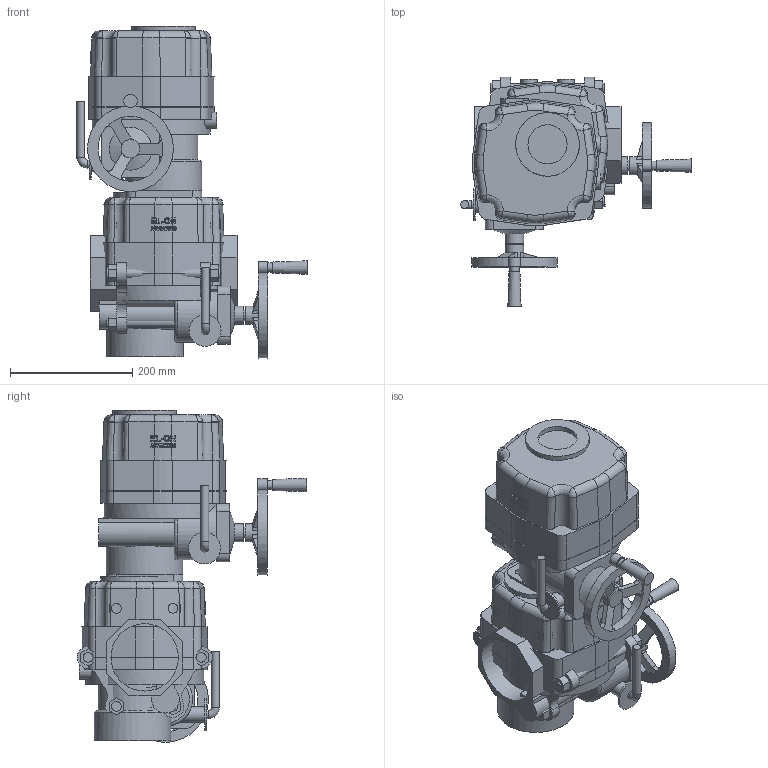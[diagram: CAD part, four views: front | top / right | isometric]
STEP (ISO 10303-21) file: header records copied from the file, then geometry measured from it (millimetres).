
FILE_DESCRIPTION( ( 'Unknown' ), '1' );
FILE_NAME( 'W:/ECCUA/ROOTSI BPS 3D vidinad/Kuulkraanid/Roostevaba kuulkraanid/Ball valve BPS 2420/Ball valve with electric actuator BPS/STEP formaat/BPS 2420100E ball valve DN100.stp', 'Unknown', ( 'Unknown' ), ( 'Unknown' ), 'PSStep 10.1', 'Unknown', ' ' );
FILE_SCHEMA( ( 'AUTOMOTIVE_DESIGN { 1 0 10303 214 1 1 1 1 }' ) );
Length unit declared in the file: millimetre
Products named in the file (3): Assem1; BPS 2420100 ball valve DN100; BPS 8005150 electric actuator DN150
Bounding box: 377 x 375.38 x 542.23 mm (x, y, z)
Volume: 20682386.6 mm3; surface area: 1427500.1 mm2
Topology: 4 solids, 6 shells, 1354 faces, 3398 edges, 2214 vertices
Faces by surface type: plane 638, cylinder 348, bspline 242, cone 114, torus 12
Full cylindrical faces by diameter (mm): 13 x4, 15 x2, 16 x36, 18 x2, 22 x2, 25 x2, 27 x4, 30 x4, 50 x2, 52 x2, 64 x2, 75 x2, 100 x2, 104 x2, 106 x2, 110.072 x4, 112 x2, 125 x2, 150 x2, 193 x2
Entity records: 40219 total; most frequent: CARTESIAN_POINT 20306, ORIENTED_EDGE 3220, DIRECTION 2391, EDGE_CURVE 1610, VERTEX_POINT 1086, AXIS2_PLACEMENT_3D 894, EDGE_LOOP 852, FACE_OUTER_BOUND 733
